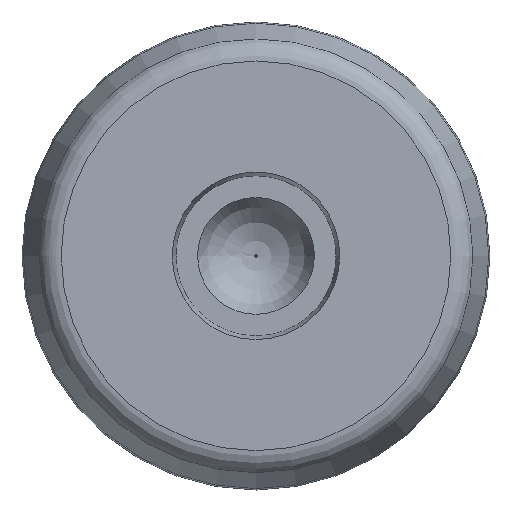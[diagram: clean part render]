
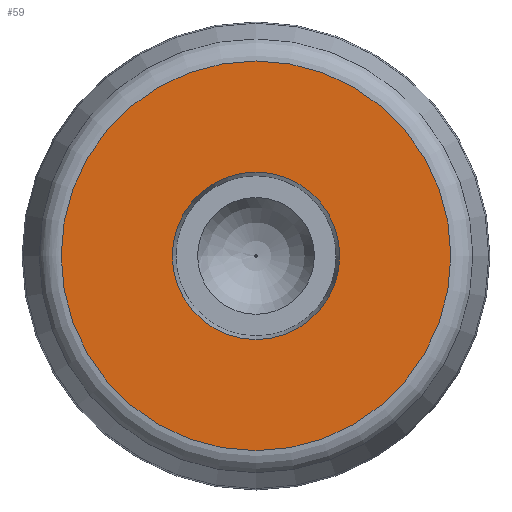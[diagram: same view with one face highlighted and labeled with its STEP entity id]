
A CAD part, top view. The second image highlights one B-rep face of the part: STEP entity #59.
In plain terms, the highlighted planar face has unit normal (0, 0, 1).
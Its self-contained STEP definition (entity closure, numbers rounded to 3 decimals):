
#59=ADVANCED_FACE('',(#164,#166),#168,.T.);
#164=FACE_BOUND('',#165,.T.);
#165=EDGE_LOOP('',(#307));
#166=FACE_BOUND('',#167,.T.);
#167=EDGE_LOOP('',(#308));
#168=PLANE('',#169);
#169=AXIS2_PLACEMENT_3D('',#170,#171,#172);
#170=CARTESIAN_POINT('',(0.,0.,19.298));
#171=DIRECTION('',(0.,0.,1.));
#172=DIRECTION('',(-1.,0.,0.));
#307=ORIENTED_EDGE('',*,*,#350,.F.);
#308=ORIENTED_EDGE('',*,*,#351,.T.);
#350=EDGE_CURVE('',#378,#378,#379,.T.);
#351=EDGE_CURVE('',#380,#380,#381,.T.);
#378=VERTEX_POINT('',#444);
#379=CIRCLE('',#445,24.984);
#380=VERTEX_POINT('',#449);
#381=CIRCLE('',#450,10.743);
#444=CARTESIAN_POINT('',(-24.984,0.,19.298));
#445=AXIS2_PLACEMENT_3D('',#446,#447,#448);
#446=CARTESIAN_POINT('',(0.,0.,19.298));
#447=DIRECTION('',(0.,0.,-1.));
#448=DIRECTION('',(-1.,0.,0.));
#449=CARTESIAN_POINT('',(-10.743,0.,19.298));
#450=AXIS2_PLACEMENT_3D('',#451,#452,#453);
#451=CARTESIAN_POINT('',(0.,0.,19.298));
#452=DIRECTION('',(0.,0.,-1.));
#453=DIRECTION('',(-1.,0.,0.));
